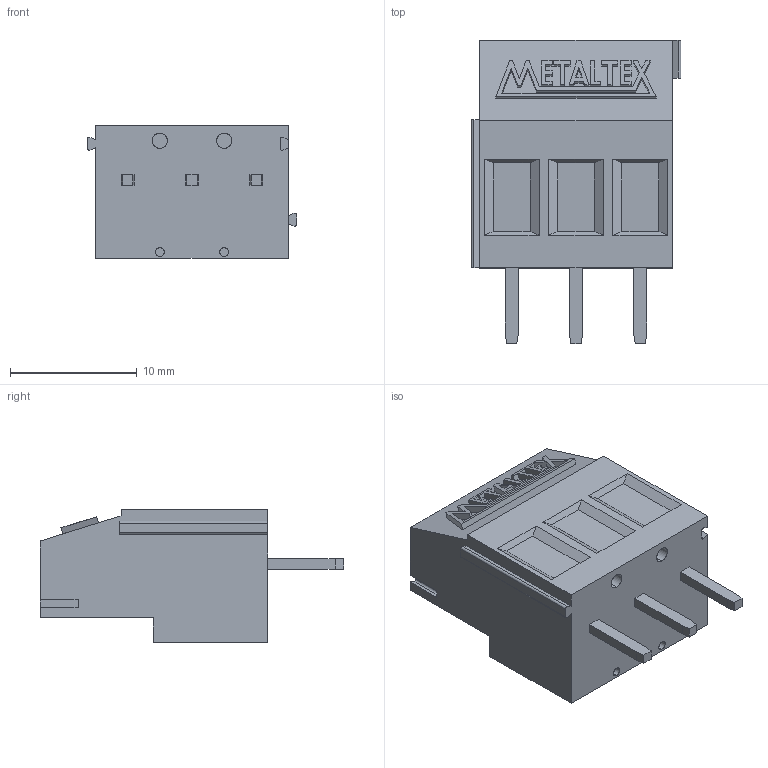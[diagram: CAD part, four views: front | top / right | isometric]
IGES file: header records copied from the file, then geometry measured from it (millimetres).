
Start section: SolidWorks IGES file using analytic representation for surfaces
Global section: file name: D:\X - Arquivos\PROEX\Empresas\P11 - METALTEX\Arquivo - Recebi por e-mail\4\IGES\BR903V.IGS; native system: SolidWorks 2012; preprocessor: SolidWorks 2012; author: Usuario; date: 190530.144524; units: millimetre
Bounding box: 16.54 x 24 x 10.5 mm (x, y, z)
Surface area: 1684.7 mm2 (no closed solid volume)
Topology: 0 solids, 0 shells, 313 faces, 2215 edges, 2215 vertices
Faces by surface type: bspline 217, revolution 96
